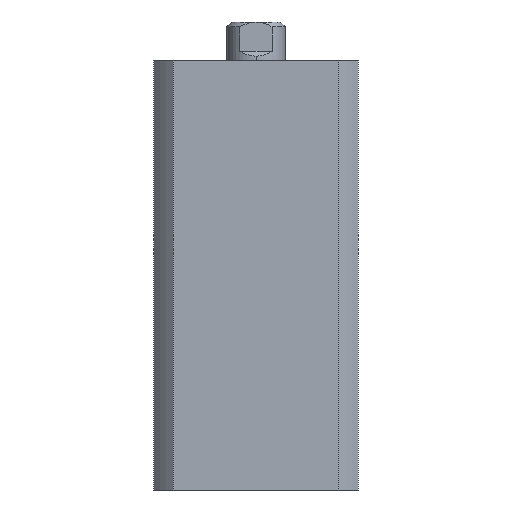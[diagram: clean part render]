
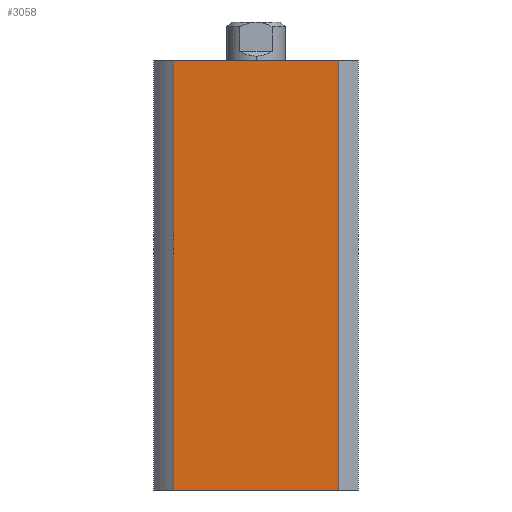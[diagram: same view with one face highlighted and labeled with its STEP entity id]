
A CAD part, left-side view. The second image highlights one B-rep face of the part: STEP entity #3058.
In plain terms, the highlighted planar face has unit normal (-1, 0, 0).
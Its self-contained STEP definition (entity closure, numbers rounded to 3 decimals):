
#309 = DIRECTION ( 'NONE',  ( 0., -1., 0. ) ) ;
#311 = CARTESIAN_POINT ( 'NONE',  ( -21., 21., 0. ) ) ;
#351 = CARTESIAN_POINT ( 'NONE',  ( -21., -16.971, 88. ) ) ;
#372 = CARTESIAN_POINT ( 'NONE',  ( -21., 16.971, 88. ) ) ;
#398 = CARTESIAN_POINT ( 'NONE',  ( -21., -16.971, 0. ) ) ;
#402 = CARTESIAN_POINT ( 'NONE',  ( -21., 16.971, 0. ) ) ;
#1728 = EDGE_LOOP ( 'NONE', ( #3539, #3530, #3494, #3495 ) ) ;
#1908 = VERTEX_POINT ( 'NONE', #402 ) ;
#1912 = VERTEX_POINT ( 'NONE', #398 ) ;
#1934 = VERTEX_POINT ( 'NONE', #372 ) ;
#1952 = VERTEX_POINT ( 'NONE', #351 ) ;
#2477 = VECTOR ( 'NONE', #309, 1000. ) ;
#2479 = LINE ( 'NONE', #311, #2477 ) ;
#2539 = VECTOR ( 'NONE', #3168, 1000. ) ;
#2548 = LINE ( 'NONE', #3163, #2539 ) ;
#2647 = VECTOR ( 'NONE', #3375, 1000. ) ;
#2649 = VECTOR ( 'NONE', #3378, 1000. ) ;
#2650 = LINE ( 'NONE', #3377, #2647 ) ;
#2652 = LINE ( 'NONE', #3390, #2649 ) ;
#2877 = FACE_OUTER_BOUND ( 'NONE', #1728, .T. ) ;
#3058 = ADVANCED_FACE ( 'NONE', ( #2877 ), #4756, .F. ) ;
#3163 = CARTESIAN_POINT ( 'NONE',  ( -21., 21., 88. ) ) ;
#3168 = DIRECTION ( 'NONE',  ( 0., -1., 0. ) ) ;
#3375 = DIRECTION ( 'NONE',  ( 0., 0., 1. ) ) ;
#3377 = CARTESIAN_POINT ( 'NONE',  ( -21., 16.971, 88. ) ) ;
#3378 = DIRECTION ( 'NONE',  ( 0., 0., -1. ) ) ;
#3390 = CARTESIAN_POINT ( 'NONE',  ( -21., -16.971, 88. ) ) ;
#3494 = ORIENTED_EDGE ( 'NONE', *, *, #4436, .F. ) ;
#3495 = ORIENTED_EDGE ( 'NONE', *, *, #4558, .T. ) ;
#3530 = ORIENTED_EDGE ( 'NONE', *, *, #4509, .F. ) ;
#3539 = ORIENTED_EDGE ( 'NONE', *, *, #4435, .F. ) ;
#3641 = AXIS2_PLACEMENT_3D ( 'NONE', #4758, #4753, #4752 ) ;
#4435 = EDGE_CURVE ( 'NONE', #1952, #1912, #2652, .T. ) ;
#4436 = EDGE_CURVE ( 'NONE', #1908, #1934, #2650, .T. ) ;
#4509 = EDGE_CURVE ( 'NONE', #1934, #1952, #2548, .T. ) ;
#4558 = EDGE_CURVE ( 'NONE', #1908, #1912, #2479, .T. ) ;
#4752 = DIRECTION ( 'NONE',  ( 0., 1., 0. ) ) ;
#4753 = DIRECTION ( 'NONE',  ( 1., 0., 0. ) ) ;
#4756 = PLANE ( 'NONE',  #3641 ) ;
#4758 = CARTESIAN_POINT ( 'NONE',  ( -21., 21., 88. ) ) ;
